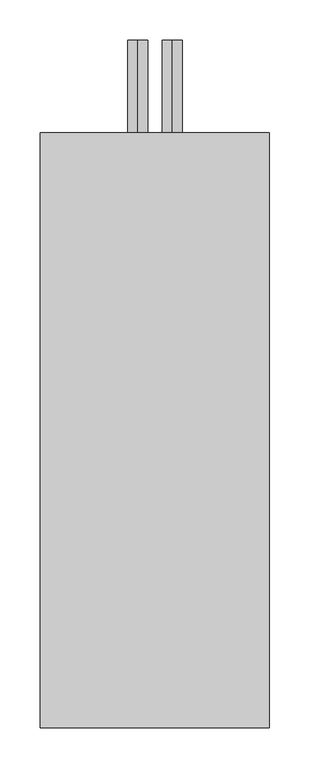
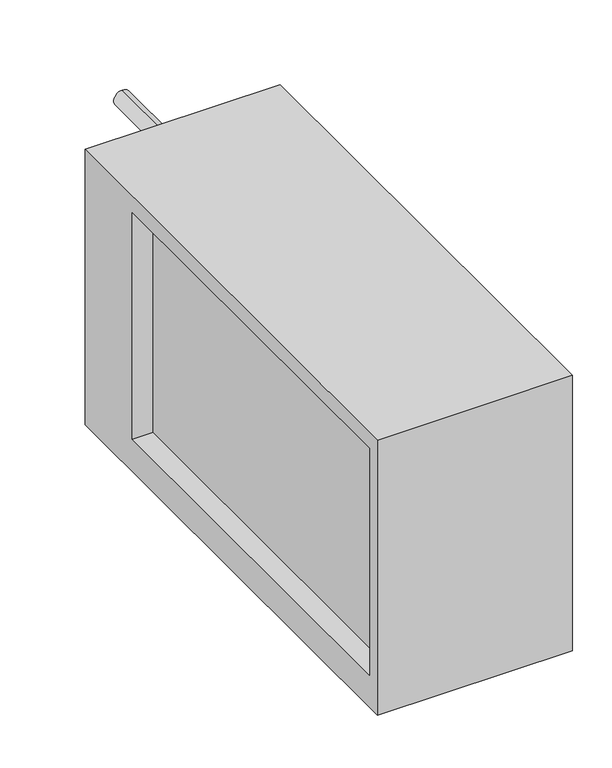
"""IFC4 building model written with IfcOpenShell, lengths in millimetres: proxy geometry, СВ_ВоздухоохладительВодяной_КанальныйПрямоугольный_200-1000_SPC-W : SPC-W-600x350-L."""

from ifc_helpers import new_model, si_unit, point, frame, frame_2d, origin, place, context, project, spatial, polyline, circle_curve, trimmed, segment, composite_curve, outline, extrude, source, transform, mapped, element, save


def mechanical_equipment_134bddf9(model_context):
    return source(origin(), model_context, "Body", "SweptSolid", [
        extrude(outline(polyline([(-320.0, -225.0), (-320.0, 200.0), (420.0, 200.0), (420.0, -225.0), (-320.0, -225.0)]), holes=[polyline([(-300.0, 175.0), (-300.0, -175.0), (300.0, -175.0), (300.0, 175.0), (-300.0, 175.0)])]), frame((-142.5, 0.0, 0.0), z_axis=(1.0, 0.0, 0.0), x_axis=(0.0, 1.0, 0.0)), (0.0, 0.0, 1.0), 285.0),
        extrude(outline(composite_curve([segment(trimmed(circle_curve(frame_2d((-167.0, 21.5)), 12.5), [point((-179.5, 21.5))], [point((-154.5, 21.5))], False, "CARTESIAN"), True, "CONTINUOUS"), segment(trimmed(circle_curve(frame_2d((-167.0, 21.5)), 12.5), [point((-154.5, 21.5))], [point((-179.5, 21.5))], False, "CARTESIAN"), True, "CONTINUOUS")], self_intersect=False)), frame((0.0, 420.0, 0.0), z_axis=(0.0, 1.0, 0.0), x_axis=(0.0, 0.0, 1.0)), (0.0, 0.0, 1.0), 115.0),
        extrude(outline(composite_curve([segment(trimmed(circle_curve(frame_2d((167.0, -21.5)), 12.5), [point((154.5, -21.5))], [point((179.5, -21.5))], False, "CARTESIAN"), True, "CONTINUOUS"), segment(trimmed(circle_curve(frame_2d((167.0, -21.5)), 12.5), [point((179.5, -21.5))], [point((154.5, -21.5))], False, "CARTESIAN"), True, "CONTINUOUS")], self_intersect=False)), frame((0.0, 420.0, 0.0), z_axis=(0.0, 1.0, 0.0), x_axis=(0.0, 0.0, 1.0)), (0.0, 0.0, 1.0), 115.0),
        extrude(outline(composite_curve([segment(trimmed(circle_curve(frame_2d((0.0, 380.0)), 11.0), [point((-11.0, 380.0))], [point((11.0, 380.0))], False, "CARTESIAN"), True, "CONTINUOUS"), segment(trimmed(circle_curve(frame_2d((0.0, 380.0)), 11.0), [point((11.0, 380.0))], [point((-11.0, 380.0))], False, "CARTESIAN"), True, "CONTINUOUS")], self_intersect=False)), frame((0.0, 0.0, -245.0), z_axis=(0.0, 0.0, 1.0), x_axis=(1.0, 0.0, 0.0)), (0.0, 0.0, 1.0), 20.0),
        extrude(outline(polyline([(112.5, 300.0), (112.5, -300.0), (-112.5, -300.0), (-112.5, 300.0), (112.5, 300.0)])), frame((0.0, 0.0, -175.0), z_axis=(0.0, 0.0, 1.0), x_axis=(1.0, 0.0, 0.0)), (0.0, 0.0, 1.0), 350.0),
    ])


if __name__ == "__main__":
    model = new_model("IFC4")
    model_context = context("Model", 3, world=origin())
    ifc_project = project(units=[si_unit("LENGTHUNIT", "METRE", prefix="MILLI")], contexts=[model_context])
    site = spatial("IfcSite", under=ifc_project)
    building = spatial("IfcBuilding", under=site)
    placement = place(None, origin())
    mechanical_equipment_shape = mechanical_equipment_134bddf9(model_context)
    element("IfcBuildingElementProxy", 1, Name="СВ_ВоздухоохладительВодяной_КанальныйПрямоугольный_200-1000_SPC-W : SPC-W-600x350-L", ObjectType="СВ_ВоздухоохладительВодяной_КанальныйПрямоугольный_200-1000_SPC-W : SPC-W-600x350-L", at=placement, inside=building, context=model_context, shape_type="MappedRepresentation", body=[
        mapped(mechanical_equipment_shape, transform((0.0, 0.0, 0.0), x_axis=(1.0, 0.0, 0.0), y_axis=(0.0, 1.0, 0.0), z_axis=(0.0, 0.0, 1.0))),
    ])
    save(model, "model.ifc")
